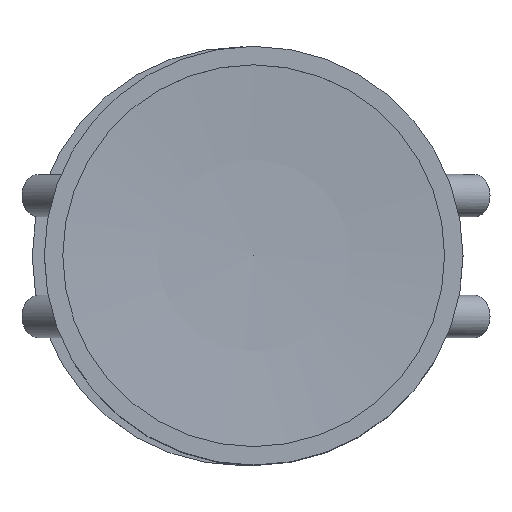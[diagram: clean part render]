
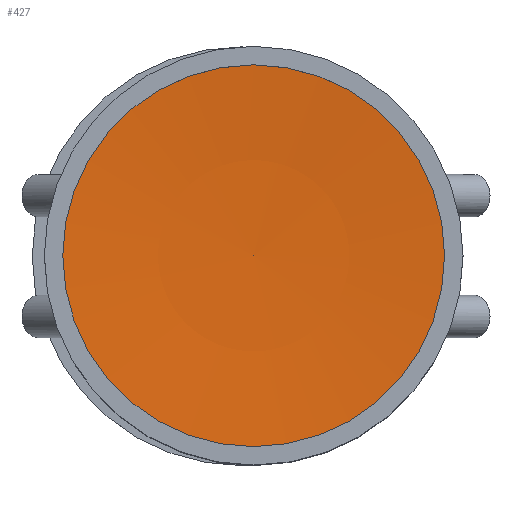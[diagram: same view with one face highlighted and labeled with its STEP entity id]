
A CAD part, top view. The second image highlights one B-rep face of the part: STEP entity #427.
In plain terms, the highlighted spherical face has radius 10416.7 mm.
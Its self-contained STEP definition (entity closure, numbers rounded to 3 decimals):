
#427 = ADVANCED_FACE( '', ( #856 ), #857, .F. );
#856 = FACE_OUTER_BOUND( '', #1297, .T. );
#857 = SPHERICAL_SURFACE( '', #1298, 10416.667 );
#1297 = EDGE_LOOP( '', ( #1997 ) );
#1298 = AXIS2_PLACEMENT_3D( '', #1998, #1999, #2000 );
#1997 = ORIENTED_EDGE( '', *, *, #2008, .F. );
#1998 = CARTESIAN_POINT( '', ( 0., 0., -10386.667 ) );
#1999 = DIRECTION( '', ( 0., 0., 1. ) );
#2000 = DIRECTION( '', ( -1., 0., 0. ) );
#2008 = EDGE_CURVE( '', #2236, #2236, #2237, .T. );
#2236 = VERTEX_POINT( '', #2570 );
#2237 = CIRCLE( '', #2571, 790. );
#2570 = CARTESIAN_POINT( '', ( 790., 0., 0. ) );
#2571 = AXIS2_PLACEMENT_3D( '', #4285, #4286, #4287 );
#4285 = CARTESIAN_POINT( '', ( 0., 0., 0. ) );
#4286 = DIRECTION( '', ( 0., 0., 1. ) );
#4287 = DIRECTION( '', ( 1., 0., 0. ) );
